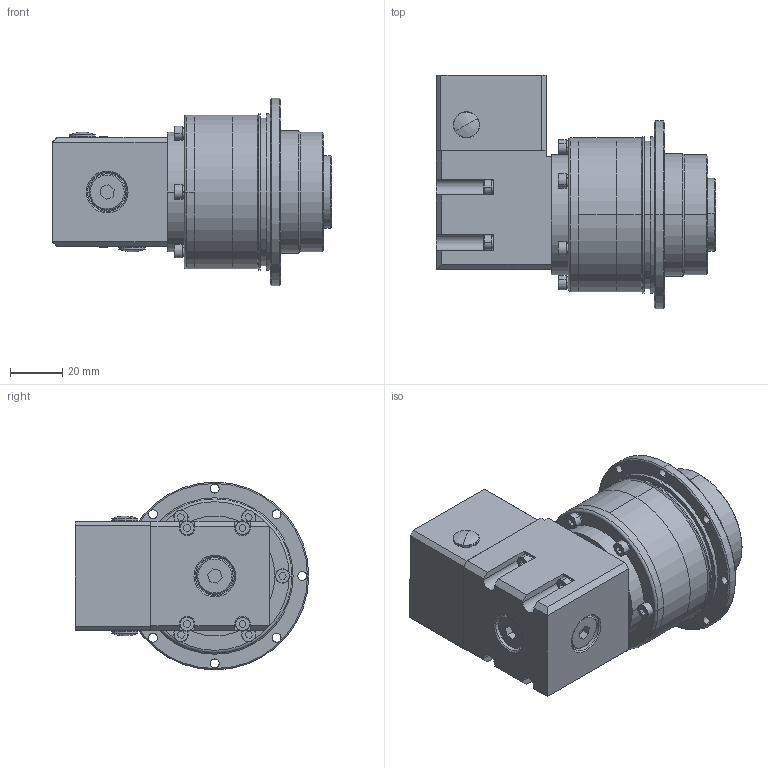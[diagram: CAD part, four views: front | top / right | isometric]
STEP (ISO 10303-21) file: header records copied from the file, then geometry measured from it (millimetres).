
FILE_DESCRIPTION (( 'STEP AP203' ), '1' );
FILE_NAME ('ADR047L2-OP2-8-25-30-45-M3.STEP', '2020-03-11T09:38:31', ( 'dell' ), ( '' ), 'SwSTEP 2.0', 'SolidWorks 2018', '' );
FILE_SCHEMA (( 'CONFIG_CONTROL_DESIGN' ));
Length unit declared in the file: millimetre
Products named in the file (1): ADR047L2-OP2-8-25-30-45-M3
Bounding box: 107 x 89.5 x 72 mm (x, y, z)
Volume: 168328.6 mm3; surface area: 84706.9 mm2
Topology: 41 solids, 41 shells, 1085 faces, 2768 edges, 1736 vertices
Faces by surface type: cylinder 413, plane 344, torus 136, cone 132, sphere 60
Entity records: 33085 total; most frequent: CARTESIAN_POINT 6651, DIRECTION 5886, ORIENTED_EDGE 5224, EDGE_CURVE 2612, AXIS2_PLACEMENT_3D 2401, VERTEX_POINT 1680, CIRCLE 1315, EDGE_LOOP 1302
